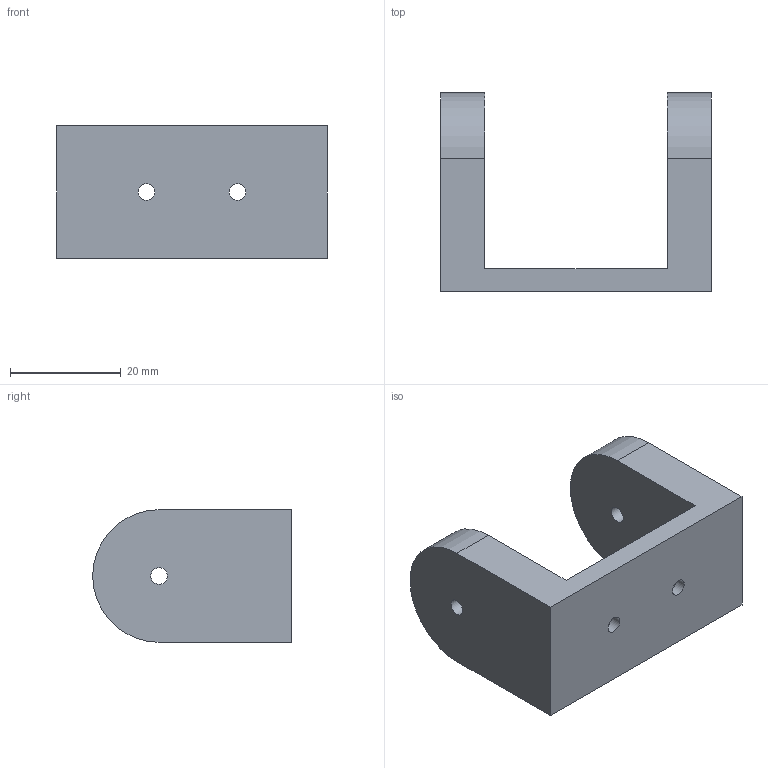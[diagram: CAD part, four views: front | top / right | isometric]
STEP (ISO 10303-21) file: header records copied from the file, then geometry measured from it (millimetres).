
FILE_DESCRIPTION(/* description */ (''),/* implementation_level */ '2;1');
FILE_NAME(/* name */ 'C:/Users/ianhu/Documents/Robots/Boosters/Ians Booster Rear Bracket.step',/* time_stamp */ '2019-01-21T17:52:44+10:00',/* author */ (''),/* organization */ (''),/* preprocessor_version */ 'ST-DEVELOPER v17.2',/* originating_system */ 'Autodesk Translation Framework v7.6.0.251',/* authorisation */ '');
FILE_SCHEMA (('AUTOMOTIVE_DESIGN { 1 0 10303 214 3 1 1 }'));
Length unit declared in the file: millimetre
Products named in the file (3): Booster Rear Bracket Mod 1; Base; Side
Assembly tree (3 placements, depth 2):
  Booster Rear Bracket Mod 1
    Base
    Side  x2
Bounding box: 49 x 35.91 x 24 mm (x, y, z)
Volume: 15745 mm3; surface area: 6766.6 mm2
Topology: 1 solids, 1 shells, 16 faces, 40 edges, 26 vertices
Faces by surface type: plane 8, cylinder 6, cone 2
Full cylindrical faces by diameter (mm): 3 x4
Entity records: 590 total; most frequent: DIRECTION 98, CARTESIAN_POINT 88, ORIENTED_EDGE 80, EDGE_CURVE 40, AXIS2_PLACEMENT_3D 36, LINE 26, VECTOR 26, VERTEX_POINT 26
